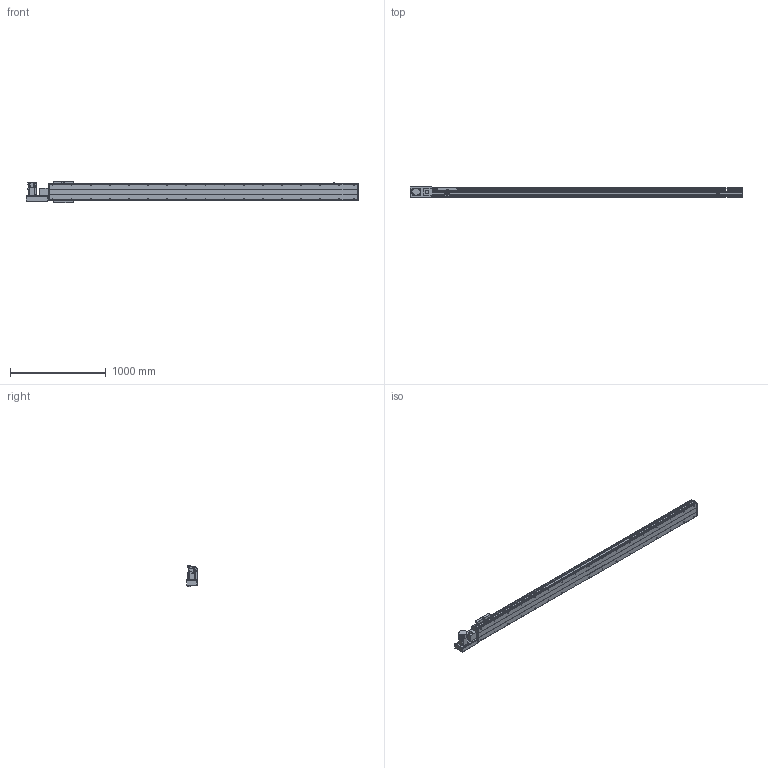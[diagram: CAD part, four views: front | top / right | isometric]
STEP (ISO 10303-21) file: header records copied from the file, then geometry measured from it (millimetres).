
FILE_DESCRIPTION(/* description */ ('STEP AP214'),/* implementation_level */ '2;1');
FILE_NAME(/* name */ 'PBS200-P40-S2850-L-T75-C1-N(0)',/* time_stamp */ '2022-06-11T07:51:19+02:00',/* author */ ('License CC BY-ND 4.0'),/* organization */ ('CADENAS'),/* preprocessor_version */ 'ST-DEVELOPER v18.102',/* originating_system */ 'PARTsolutions',/* authorisation */ ' ');
FILE_SCHEMA (('AUTOMOTIVE_DESIGN {1 0 10303 214 3 1 1}'));
Length unit declared in the file: millimetre
Products named in the file (7): PBS200-P40-S2850-L-T75-C1-N(0); PBS200_sensor; PBS200_plant; PBS200_sliser; T75-p1; PBS200T-L_motors; PBS200-S2850()_body
Assembly tree (8 placements, depth 2):
  PBS200-P40-S2850-L-T75-C1-N(0)
    PBS200_sensor  x3
    PBS200_plant
    PBS200_sliser
    T75-p1
    PBS200T-L_motors
    PBS200-S2850()_body
Bounding box: 3472 x 109 x 221 mm (x, y, z)
Volume: 22789599.6 mm3; surface area: 3640860.2 mm2
Topology: 8 solids, 8 shells, 974 faces, 2464 edges, 1602 vertices
Faces by surface type: plane 592, cylinder 316, cone 66
Full cylindrical faces by diameter (mm): 2.459 x6, 3.242 x4, 4.5 x6, 4.917 x4, 5 x6, 6 x7, 6.6 x8, 6.647 x38, 8 x6, 10 x4, 12 x8, 38 x2, 40 x1, 70 x1
Entity records: 25661 total; most frequent: DIRECTION 4543, CARTESIAN_POINT 4354, ORIENTED_EDGE 4090, EDGE_CURVE 2045, AXIS2_PLACEMENT_3D 1615, VERTEX_POINT 1426, LINE 1313, VECTOR 1313
